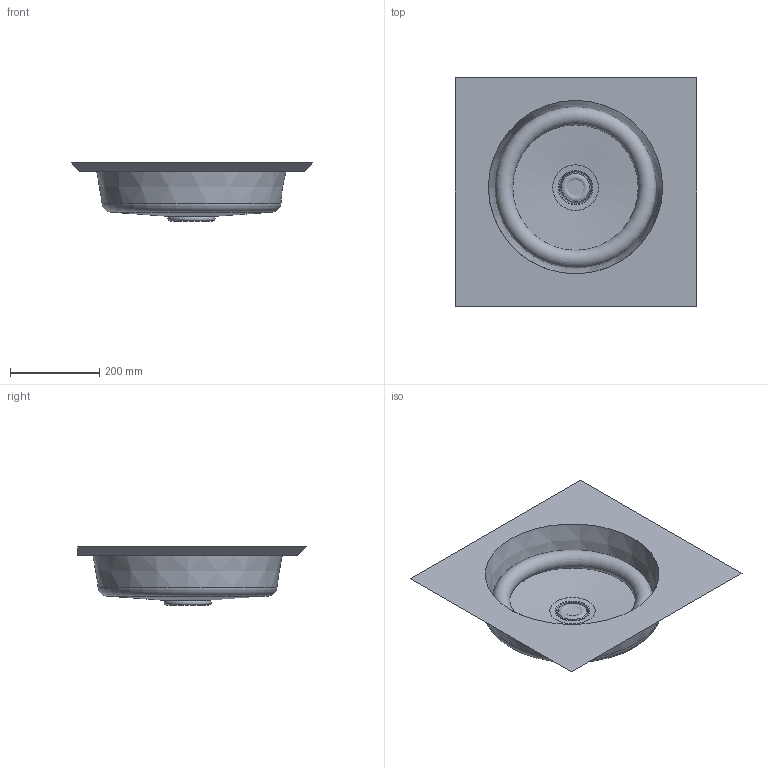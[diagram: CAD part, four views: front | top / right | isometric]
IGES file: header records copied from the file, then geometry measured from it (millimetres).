
Start section: Data from Parasolid IGES Translator 22.0.50, Copyright(c) 2006 Siemens P LM Software. All Rights Reserved.
Global section: file name: noorth-top-H 1,9 D 51,3 W 72_4537.igs; native system: By Siemens PLM Incorporated; preprocessor: XPlus GENERIC/IGES 22.0.50; author: Noname; organization: Noname; date: 20251105.214138; units: metre
Bounding box: 540 x 510 x 129.79 mm (x, y, z)
Volume: 8425916.8 mm3; surface area: 844463.3 mm2
Topology: 3 solids, 3 shells, 37 faces, 67 edges, 40 vertices
Faces by surface type: plane 14, cone 11, cylinder 7, torus 5
Full cylindrical faces by diameter (mm): 4 x2, 34 x2, 46 x1, 64 x1
